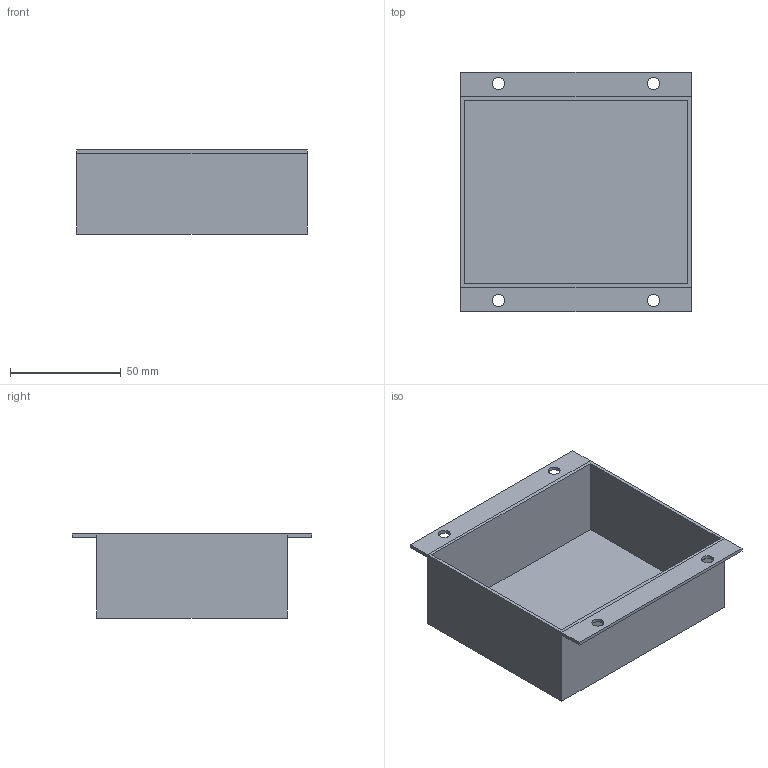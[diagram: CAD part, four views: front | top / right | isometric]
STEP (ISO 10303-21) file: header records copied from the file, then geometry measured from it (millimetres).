
FILE_DESCRIPTION(('Open CASCADE Model'),'2;1');
FILE_NAME('Open CASCADE Shape Model','2026-10-18T22:58:23',('Author'),( 'Open CASCADE'),'Open CASCADE STEP processor 7.9','Open CASCADE 7.9' ,'Unknown');
FILE_SCHEMA(('AUTOMOTIVE_DESIGN { 1 0 10303 214 1 1 1 1 }'));
Length unit declared in the file: millimetre
Products named in the file (1): Open CASCADE STEP translator 7.9 22
Bounding box: 104 x 108 x 38 mm (x, y, z)
Volume: 37182 mm3; surface area: 50315.6 mm2
Topology: 1 solids, 1 shells, 25 faces, 58 edges, 36 vertices
Faces by surface type: plane 21, cylinder 4
Full cylindrical faces by diameter (mm): 5.5 x4
Entity records: 1492 total; most frequent: CARTESIAN_POINT 292, DIRECTION 218, LINE 150, VECTOR 150, ORIENTED_EDGE 116, PCURVE 116, DEFINITIONAL_REPRESENTATION 116, EDGE_CURVE 58
